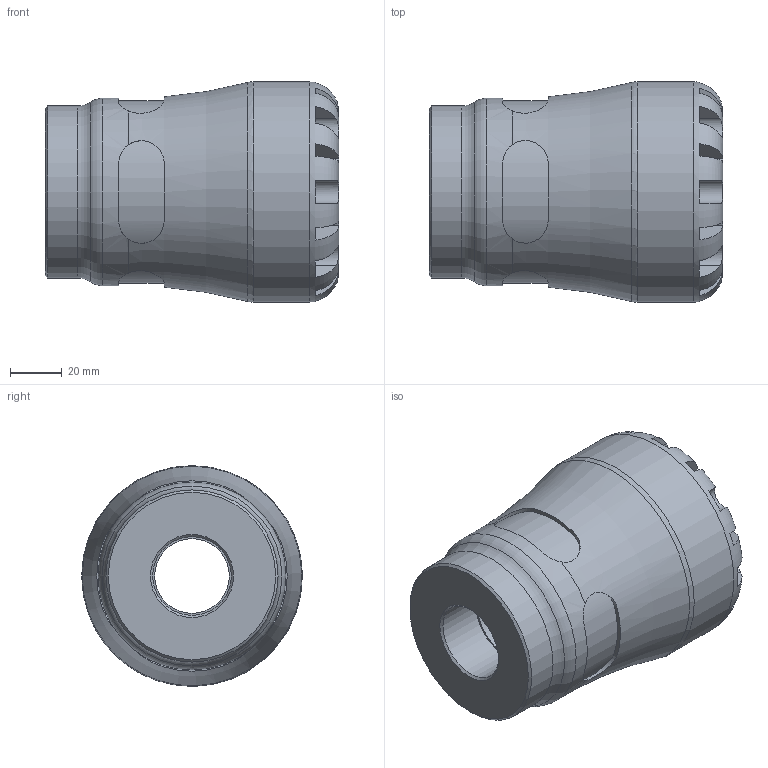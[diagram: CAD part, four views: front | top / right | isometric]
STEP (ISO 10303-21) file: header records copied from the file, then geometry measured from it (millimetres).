
FILE_DESCRIPTION(/* description */ ('PLASSON FEMALE INTEGRAL BRASS THREAD 50-1" SERIES 1'),/* implementation_level */ '2;1');
FILE_NAME(/* name */ 'C:\Dropbox\KIMPROJECTS-Inventor\99-16-3568-Processing\1073\107300050010_197300050010.ipt.stp',/* time_stamp */ '2017-01-22T11:35:42+02:00',/* author */ ('KIM'),/* organization */ (''),/* preprocessor_version */ 'ST-DEVELOPER v15.6',/* originating_system */ 'Autodesk Inventor 2015',/* authorisation */ '');
FILE_SCHEMA (('AUTOMOTIVE_DESIGN { 1 0 10303 214 3 1 1 }'));
Length unit declared in the file: millimetre
Products named in the file (1): 107300050010_197300050010
Bounding box: 113 x 85 x 85 mm (x, y, z)
Volume: 328416.5 mm3; surface area: 52613.9 mm2
Topology: 1 solids, 1 shells, 104 faces, 265 edges, 166 vertices
Faces by surface type: plane 61, cylinder 35, torus 5, cone 3
Full cylindrical faces by diameter (mm): 28.776 x1, 30.291 x1, 41.667 x1, 50 x1, 66.3 x1, 72.25 x1, 85 x1
Entity records: 3856 total; most frequent: CARTESIAN_POINT 1469, ORIENTED_EDGE 492, DIRECTION 478, EDGE_CURVE 246, AXIS2_PLACEMENT_3D 199, VERTEX_POINT 162, EDGE_LOOP 124, FACE_OUTER_BOUND 104
